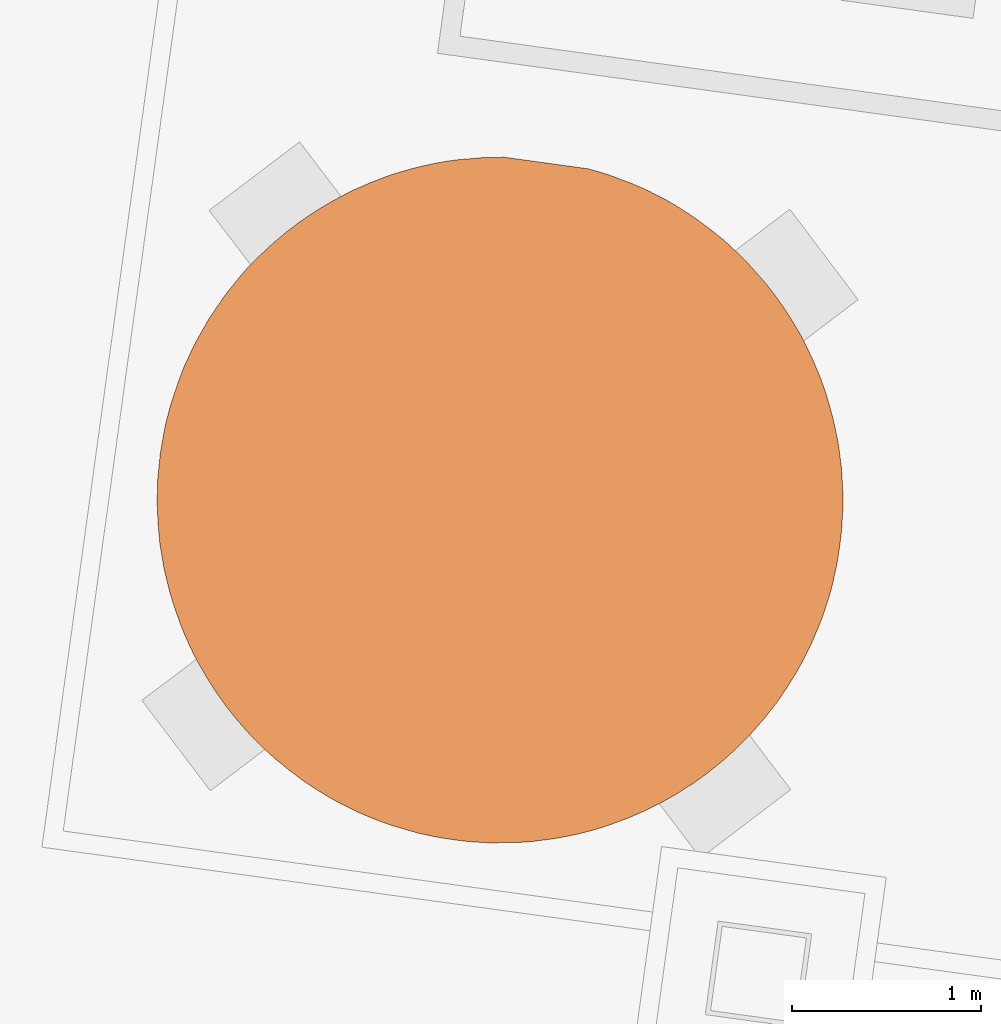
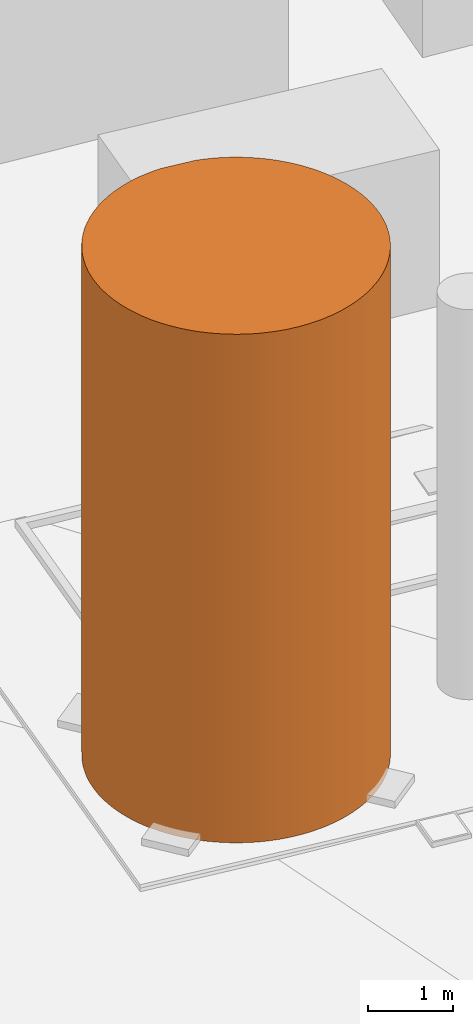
# Not in any storey, part 67 of 75: 1 proxy.
"""IFC4 model written with IfcOpenShell, lengths in metres."""

from ifc_helpers import new_model, si_unit, direction, origin_with_axes, place, context, subcontext, project, spatial, triangles, element, save


model = new_model("IFC4")

# Units and contexts
model_context = context("Model", 3, precision=1e-05, world=origin_with_axes(), true_north=direction((0.0, 1.0)))
body_context = subcontext(model_context, "Body", "Model", "MODEL_VIEW")
ifc_project = project(units=[si_unit("AREAUNIT", "SQUARE_METRE"), si_unit("VOLUMEUNIT", "CUBIC_METRE"), si_unit("LENGTHUNIT", "METRE")], contexts=[model_context])

# Site
site_placement = place(None, origin_with_axes())
site = spatial("IfcSite", under=ifc_project, at=site_placement, Name="Parcela industrial Jinhong")

# Proxy
proxy_placement = place(site_placement, origin_with_axes())
element("IfcBuildingElementProxy", 1, at=proxy_placement, inside=site, Name="Adsorbedor MS1202 · volumen de referencia H 7,30 m", ObjectType="Marcador de equipo en planta", PredefinedType="USERDEFINED", context=body_context, shape_type="Tessellation", body=[
    triangles([(49.49641, 58.04874, 1.2), (49.422422, 57.989508, 1.2), (49.458663, 58.020117, 1.2), (49.458663, 58.020117, 8.5), (49.422422, 57.989508, 8.5), (49.49641, 58.04874, 8.5), (49.573411, 58.103998, 1.2), (49.573411, 58.103998, 8.5), (49.534157, 58.077362, 1.2), (49.534157, 58.077362, 8.5), (49.351446, 57.926303, 1.2), (49.351446, 57.926303, 8.5), (49.653425, 58.155283, 1.2), (49.653425, 58.155283, 8.5), (49.612665, 58.130634, 1.2), (49.612665, 58.130634, 8.5), (49.736452, 58.202594, 1.2), (49.694185, 58.179932, 1.2), (49.694185, 58.179932, 8.5), (49.736452, 58.202594, 8.5), (49.864278, 58.265102, 1.2), (49.778719, 58.225257, 1.2), (49.778719, 58.225257, 8.5), (49.864278, 58.265102, 8.5), (49.820745, 58.246173, 1.2), (49.820745, 58.246173, 8.5), (49.952851, 58.300973, 1.2), (49.907811, 58.284031, 1.2), (49.907811, 58.284031, 8.5), (49.952851, 58.300973, 8.5), (50.042689, 58.333111, 1.2), (49.996143, 58.318156, 1.2), (49.996143, 58.318156, 8.5), (50.042689, 58.333111, 8.5), (50.087249, 58.346561, 1.2), (50.087249, 58.346561, 8.5), (50.414293, 58.408372, 1.2), (50.414293, 58.408372, 8.5), (50.225445, 58.380948, 1.2), (50.225445, 58.380948, 8.5), (50.133554, 58.35977, 1.2), (50.133554, 58.35977, 8.5), (50.17962, 58.371232, 1.2), (50.17962, 58.371232, 8.5), (50.273017, 58.390424, 1.2), (50.273017, 58.390424, 8.5), (50.365695, 58.404376, 1.2), (50.365695, 58.404376, 8.5), (50.318603, 58.398393, 1.2), (50.318603, 58.398393, 8.5), (50.556114, 58.417347, 1.2), (50.461145, 58.412608, 1.2), (50.507996, 58.416844, 1.2), (50.507996, 58.416844, 8.5), (50.461145, 58.412608, 8.5), (50.556114, 58.417347, 8.5), (51.072314, 58.353496, 1.2), (50.602486, 58.41809, 1.2), (50.611459, 58.418636, 1.2), (50.611459, 58.418636, 8.5), (50.602486, 58.41809, 8.5), (51.072314, 58.353496, 8.5), (51.063821, 58.356443, 1.2), (51.063821, 58.356443, 8.5), (51.208678, 58.309833, 1.2), (51.118511, 58.340026, 1.2), (51.162961, 58.326796, 1.2), (51.162961, 58.326796, 8.5), (51.118511, 58.340026, 8.5), (51.208678, 58.309833, 8.5), (51.252648, 58.293111, 1.2), (51.252648, 58.293111, 8.5), (51.947834, 57.809583, 1.2), (51.947834, 57.809583, 8.5), (51.667986, 58.065167, 1.2), (51.667986, 58.065167, 8.5), (51.550877, 58.145333, 1.2), (51.550877, 58.145333, 8.5), (51.427088, 58.21574, 1.2), (51.427088, 58.21574, 8.5), (51.383838, 58.237703, 1.2), (51.383838, 58.237703, 8.5), (51.340348, 58.257919, 1.2), (51.340348, 58.257919, 8.5), (51.296618, 58.276388, 1.2), (51.296618, 58.276388, 8.5), (51.509854, 58.170549, 1.2), (51.509854, 58.170549, 8.5), (51.468591, 58.194018, 1.2), (51.468591, 58.194018, 8.5), (51.62919, 58.093636, 1.2), (51.62919, 58.093636, 8.5), (51.590154, 58.120358, 1.2), (51.590154, 58.120358, 8.5), (51.849806, 57.91204, 1.2), (51.849806, 57.91204, 8.5), (51.743591, 58.006724, 1.2), (51.743591, 58.006724, 8.5), (51.706782, 58.036699, 1.2), (51.706782, 58.036699, 8.5), (51.815224, 57.945268, 1.2), (51.780401, 57.976749, 1.2), (51.780401, 57.976749, 8.5), (51.815224, 57.945268, 8.5), (51.916985, 57.844077, 1.2), (51.916985, 57.844077, 8.5), (51.884389, 57.878812, 1.2), (51.884389, 57.878812, 8.5), (51.572034, 55.076195, 1.2), (51.572034, 55.076195, 8.5), (52.272965, 57.287953, 1.2), (52.272965, 57.287953, 8.5), (52.235107, 57.375019, 1.2), (52.235107, 57.375019, 8.5), (52.145964, 57.542098, 1.2), (52.145964, 57.542098, 8.5), (52.094679, 57.622112, 1.2), (52.094679, 57.622112, 8.5), (52.039421, 57.699114, 1.2), (52.039421, 57.699114, 8.5), (51.98019, 57.773102, 1.2), (51.98019, 57.773102, 8.5), (52.010799, 57.736861, 1.2), (52.010799, 57.736861, 8.5), (52.068044, 57.661366, 1.2), (52.068044, 57.661366, 8.5), (52.121315, 57.582859, 1.2), (52.121315, 57.582859, 8.5), (52.214432, 57.418792, 1.2), (52.170613, 57.501338, 1.2), (52.170613, 57.501338, 8.5), (52.214432, 57.418792, 8.5), (52.193516, 57.460818, 1.2), (52.193516, 57.460818, 8.5), (52.255783, 57.331245, 1.2), (52.255783, 57.331245, 8.5), (52.30709, 57.19962, 1.2), (52.291895, 57.24442, 1.2), (52.291895, 57.24442, 8.5), (52.30709, 57.19962, 8.5), (52.335495, 57.108515, 1.2), (52.335495, 57.108515, 8.5), (52.322286, 57.154821, 1.2), (52.322286, 57.154821, 8.5), (52.390327, 56.355329, 1.2), (52.390327, 56.355329, 8.5), (52.369883, 56.970318, 1.2), (52.369883, 56.970318, 8.5), (52.348704, 57.062209, 1.2), (52.348704, 57.062209, 8.5), (52.360167, 57.016144, 1.2), (52.360167, 57.016144, 8.5), (52.387328, 56.877161, 1.2), (52.379599, 56.924493, 1.2), (52.379599, 56.924493, 8.5), (52.387328, 56.877161, 8.5), (52.393311, 56.830069, 1.2), (52.393311, 56.830069, 8.5), (52.403289, 56.734379, 1.2), (52.399293, 56.782977, 1.2), (52.399293, 56.782977, 8.5), (52.403289, 56.734379, 8.5), (52.405779, 56.687767, 1.2), (52.405779, 56.687767, 8.5), (52.404537, 56.497522, 1.2), (52.404537, 56.497522, 8.5), (52.408028, 56.639409, 1.2), (52.408028, 56.639409, 8.5), (52.407528, 56.54516, 1.2), (52.407528, 56.54516, 8.5), (52.408771, 56.593038, 1.2), (52.408771, 56.593038, 8.5), (52.401547, 56.449885, 1.2), (52.401547, 56.449885, 8.5), (52.39681, 56.402487, 1.2), (52.39681, 56.402487, 8.5), (51.652288, 55.129227, 1.2), (51.612794, 55.100844, 1.2), (51.612794, 55.100844, 8.5), (51.652288, 55.129227, 8.5), (51.49226, 55.026657, 1.2), (51.53278, 55.049559, 1.2), (51.53278, 55.049559, 8.5), (51.49226, 55.026657, 8.5), (51.407726, 54.981332, 1.2), (51.449753, 55.002248, 1.2), (51.449753, 55.002248, 8.5), (51.407726, 54.981332, 8.5), (51.322167, 54.941487, 1.2), (51.322167, 54.941487, 8.5), (51.3657, 54.960416, 1.2), (51.3657, 54.960416, 8.5), (51.233594, 54.905616, 1.2), (51.278634, 54.922558, 1.2), (51.278634, 54.922558, 8.5), (51.233594, 54.905616, 8.5), (50.630331, 54.789242, 1.2), (50.630331, 54.789242, 8.5), (50.819004, 54.802453, 1.2), (50.819004, 54.802453, 8.5), (50.961, 54.825641, 1.2), (50.961, 54.825641, 8.5), (51.099197, 54.860028, 1.2), (51.099197, 54.860028, 8.5), (51.188555, 54.888673, 1.2), (51.188555, 54.888673, 8.5), (51.143756, 54.873478, 1.2), (51.143756, 54.873478, 8.5), (51.052891, 54.846819, 1.2), (51.052891, 54.846819, 8.5), (51.006825, 54.835357, 1.2), (51.006825, 54.835357, 8.5), (50.913428, 54.816165, 1.2), (50.913428, 54.816165, 8.5), (50.866096, 54.808436, 1.2), (50.866096, 54.808436, 8.5), (50.676702, 54.789985, 1.2), (50.676702, 54.789985, 8.5), (50.771912, 54.79647, 1.2), (50.771912, 54.79647, 8.5), (50.72506, 54.792234, 1.2), (50.72506, 54.792234, 8.5), (50.067934, 54.866563, 1.2), (50.067934, 54.866563, 8.5), (50.582213, 54.788739, 1.2), (50.582213, 54.788739, 8.5), (50.346011, 54.805197, 1.2), (50.346011, 54.805197, 8.5), (50.488204, 54.790986, 1.2), (50.488204, 54.790986, 8.5), (50.534095, 54.788236, 1.2), (50.534095, 54.788236, 8.5), (50.440566, 54.793977, 1.2), (50.440566, 54.793977, 8.5), (50.393168, 54.798713, 1.2), (50.393168, 54.798713, 8.5), (50.112384, 54.853333, 1.2), (50.112384, 54.853333, 8.5), (50.205259, 54.829887, 1.2), (50.205259, 54.829887, 8.5), (50.251936, 54.81991, 1.2), (50.251936, 54.81991, 8.5), (50.298853, 54.81168, 1.2), (50.298853, 54.81168, 8.5), (50.158581, 54.839864, 1.2), (50.158581, 54.839864, 8.5), (49.977527, 54.895009, 1.2), (50.021737, 54.880033, 1.2), (50.021737, 54.880033, 8.5), (49.977527, 54.895009, 8.5), (49.933557, 54.911732, 1.2), (49.933557, 54.911732, 8.5), (49.88808, 54.930441, 1.2), (49.88808, 54.930441, 8.5), (49.759357, 54.990849, 1.2), (49.759357, 54.990849, 8.5), (49.802607, 54.968886, 1.2), (49.802607, 54.968886, 8.5), (49.84435, 54.94891, 1.2), (49.84435, 54.94891, 8.5), (49.518459, 55.141421, 1.2), (49.518459, 55.141421, 8.5), (49.635568, 55.061256, 1.2), (49.635568, 55.061256, 8.5), (49.676591, 55.03604, 1.2), (49.676591, 55.03604, 8.5), (49.717854, 55.012571, 1.2), (49.717854, 55.012571, 8.5), (49.596291, 55.086231, 1.2), (49.596291, 55.086231, 8.5), (49.555509, 55.113193, 1.2), (49.555509, 55.113193, 8.5), (49.442854, 55.199865, 1.2), (49.479663, 55.16989, 1.2), (49.479663, 55.16989, 8.5), (49.442854, 55.199865, 8.5), (49.371222, 55.261321, 1.2), (49.406044, 55.22984, 1.2), (49.406044, 55.22984, 8.5), (49.371222, 55.261321, 8.5), (49.302056, 55.327777, 1.2), (49.336399, 55.292803, 1.2), (49.336399, 55.292803, 8.5), (49.302056, 55.327777, 8.5), (49.236865, 55.397246, 1.2), (49.26922, 55.360765, 1.2), (49.26922, 55.360765, 8.5), (49.236865, 55.397246, 8.5), (49.175646, 55.469728, 1.2), (49.206015, 55.431741, 1.2), (49.206015, 55.431741, 8.5), (49.175646, 55.469728, 8.5), (49.118401, 55.545223, 1.2), (49.146784, 55.505729, 1.2), (49.146784, 55.505729, 8.5), (49.118401, 55.545223, 8.5), (48.879355, 56.006969, 1.2), (48.879355, 56.006969, 8.5), (49.06513, 55.62373, 1.2), (49.06513, 55.62373, 8.5), (49.091525, 55.58273, 1.2), (49.091525, 55.58273, 8.5), (49.015832, 55.705251, 1.2), (49.015832, 55.705251, 8.5), (49.040241, 55.662744, 1.2), (49.040241, 55.662744, 8.5), (48.949591, 55.831811, 1.2), (48.949591, 55.831811, 8.5), (48.992929, 55.745771, 1.2), (48.992929, 55.745771, 8.5), (48.970267, 55.788037, 1.2), (48.970267, 55.788037, 8.5), (48.911733, 55.918876, 1.2), (48.911733, 55.918876, 8.5), (48.930422, 55.873597, 1.2), (48.930422, 55.873597, 8.5), (48.894551, 55.962169, 1.2), (48.894551, 55.962169, 8.5), (48.837501, 56.142633, 1.2), (48.864159, 56.051768, 1.2), (48.864159, 56.051768, 8.5), (48.837501, 56.142633, 8.5), (48.849203, 56.098314, 1.2), (48.849203, 56.098314, 8.5), (48.826038, 56.188698, 1.2), (48.826038, 56.188698, 8.5), (48.806846, 56.282096, 1.2), (48.806846, 56.282096, 8.5), (48.814816, 56.236511, 1.2), (48.814816, 56.236511, 8.5), (48.799117, 56.329428, 1.2), (48.799117, 56.329428, 8.5), (48.787152, 56.423612, 1.2), (48.791388, 56.37676, 1.2), (48.791388, 56.37676, 8.5), (48.787152, 56.423612, 8.5), (48.780666, 56.518821, 1.2), (48.782915, 56.470463, 1.2), (48.782915, 56.470463, 8.5), (48.780666, 56.518821, 8.5), (48.777674, 56.613551, 1.2), (48.778176, 56.565433, 1.2), (48.778176, 56.565433, 8.5), (48.777674, 56.613551, 8.5), (48.778917, 56.661429, 1.2), (48.778917, 56.661429, 8.5), (48.784658, 56.754958, 1.2), (48.784658, 56.754958, 8.5), (48.780161, 56.709307, 1.2), (48.780161, 56.709307, 8.5), (48.789395, 56.802355, 1.2), (48.789395, 56.802355, 8.5), (48.802362, 56.89667, 1.2), (48.802362, 56.89667, 8.5), (48.794132, 56.849753, 1.2), (48.794132, 56.849753, 8.5), (48.870714, 57.173787, 1.2), (48.870714, 57.173787, 8.5), (48.810592, 56.943588, 1.2), (48.810592, 56.943588, 8.5), (48.830545, 57.036942, 1.2), (48.830545, 57.036942, 8.5), (48.818822, 56.990505, 1.2), (48.818822, 56.990505, 8.5), (48.855498, 57.12783, 1.2), (48.842268, 57.083379, 1.2), (48.842268, 57.083379, 8.5), (48.855498, 57.12783, 8.5), (49.026721, 57.518933, 1.2), (49.026721, 57.518933, 8.5), (49.003252, 57.47767, 1.2), (49.003252, 57.47767, 8.5), (48.939592, 57.351174, 1.2), (48.939592, 57.351174, 8.5), (48.88569, 57.217997, 1.2), (48.88569, 57.217997, 8.5), (48.902653, 57.263714, 1.2), (48.902653, 57.263714, 8.5), (48.919376, 57.307684, 1.2), (48.919376, 57.307684, 8.5), (48.959808, 57.394663, 1.2), (48.959808, 57.394663, 8.5), (48.979784, 57.436407, 1.2), (48.979784, 57.436407, 8.5), (49.077152, 57.600979, 1.2), (49.05019, 57.560196, 1.2), (49.05019, 57.560196, 8.5), (49.077152, 57.600979, 8.5), (49.103874, 57.640015, 1.2), (49.103874, 57.640015, 8.5), (49.1888, 57.75291, 1.2), (49.1888, 57.75291, 8.5), (49.158825, 57.716101, 1.2), (49.158825, 57.716101, 8.5), (49.130596, 57.679051, 1.2), (49.130596, 57.679051, 8.5), (49.283724, 57.860871, 1.2), (49.218775, 57.78972, 1.2), (49.218775, 57.78972, 8.5), (49.283724, 57.860871, 8.5), (49.250496, 57.826289, 1.2), (49.250496, 57.826289, 8.5), (49.316712, 57.893707, 1.2), (49.316712, 57.893707, 8.5), (49.386181, 57.958899, 1.2), (49.386181, 57.958899, 8.5), (51.727782, 55.186471, 1.2), (51.727782, 55.186471, 8.5), (51.800264, 55.24769, 1.2), (51.800264, 55.24769, 8.5), (51.965924, 55.417109, 1.2), (51.965924, 55.417109, 8.5), (52.025874, 55.490728, 1.2), (52.025874, 55.490728, 8.5), (52.134508, 55.646633, 1.2), (52.134508, 55.646633, 8.5), (52.204915, 55.770422, 1.2), (52.204915, 55.770422, 8.5), (52.265323, 55.899145, 1.2), (52.265323, 55.899145, 8.5), (52.365877, 56.216324, 1.2), (52.365877, 56.216324, 8.5), (52.383843, 56.308172, 1.2), (52.383843, 56.308172, 8.5), (52.375613, 56.261255, 1.2), (52.375613, 56.261255, 8.5), (52.315731, 56.032802, 1.2), (52.3559, 56.169647, 1.2), (52.3559, 56.169647, 8.5), (52.315731, 56.032802, 8.5), (52.344177, 56.12321, 1.2), (52.344177, 56.12321, 8.5), (52.330707, 56.077013, 1.2), (52.330707, 56.077013, 8.5), (52.283792, 55.942875, 1.2), (52.300515, 55.986846, 1.2), (52.300515, 55.986846, 8.5), (52.283792, 55.942875, 8.5), (52.246853, 55.855415, 1.2), (52.246853, 55.855415, 8.5), (52.226637, 55.811925, 1.2), (52.226637, 55.811925, 8.5), (52.182952, 55.727173, 1.2), (52.182952, 55.727173, 8.5), (52.159484, 55.685909, 1.2), (52.159484, 55.685909, 8.5), (52.082571, 55.566574, 1.2), (52.109293, 55.60561, 1.2), (52.109293, 55.60561, 8.5), (52.082571, 55.566574, 8.5), (52.055849, 55.527538, 1.2), (52.055849, 55.527538, 8.5), (51.997405, 55.451932, 1.2), (51.997405, 55.451932, 8.5), (51.869733, 55.312882, 1.2), (51.934202, 55.38054, 1.2), (51.934202, 55.38054, 8.5), (51.869733, 55.312882, 8.5), (51.902721, 55.345718, 1.2), (51.902721, 55.345718, 8.5), (51.834758, 55.278539, 1.2), (51.834758, 55.278539, 8.5), (51.763783, 55.215334, 1.2), (51.763783, 55.215334, 8.5), (51.689795, 55.156102, 1.2), (51.689795, 55.156102, 8.5)], [[1, 2, 3], [5, 6, 4], [7, 2, 1], [6, 5, 8], [7, 1, 9], [6, 8, 10], [2, 7, 11], [5, 12, 8], [13, 11, 7], [12, 14, 8], [13, 7, 15], [8, 14, 16], [18, 17, 13], [19, 14, 20], [22, 21, 17], [23, 20, 24], [25, 21, 22], [23, 24, 26], [28, 27, 21], [29, 24, 30], [32, 31, 27], [33, 30, 34], [31, 35, 27], [34, 30, 36], [35, 37, 27], [36, 30, 38], [37, 35, 39], [36, 38, 40], [39, 35, 41], [36, 40, 42], [43, 39, 41], [44, 42, 40], [45, 37, 39], [46, 40, 38], [47, 37, 45], [48, 46, 38], [47, 45, 49], [46, 48, 50], [52, 53, 51], [56, 54, 55], [58, 59, 57], [62, 60, 61], [59, 63, 57], [62, 64, 60], [65, 66, 67], [69, 70, 68], [71, 66, 65], [70, 69, 72], [37, 66, 71], [72, 69, 38], [37, 71, 73], [74, 72, 38], [73, 71, 75], [72, 74, 76], [75, 71, 77], [72, 76, 78], [77, 71, 79], [72, 78, 80], [79, 71, 81], [72, 80, 82], [81, 71, 83], [72, 82, 84], [83, 71, 85], [72, 84, 86], [87, 77, 79], [88, 80, 78], [87, 79, 89], [80, 88, 90], [91, 75, 77], [92, 78, 76], [91, 77, 93], [78, 92, 94], [95, 73, 75], [96, 76, 74], [95, 75, 97], [76, 96, 98], [97, 75, 99], [76, 98, 100], [102, 101, 97], [103, 98, 104], [95, 97, 101], [98, 96, 104], [105, 73, 95], [106, 96, 74], [105, 95, 107], [96, 106, 108], [109, 37, 73], [110, 74, 38], [73, 111, 109], [74, 110, 112], [111, 73, 113], [74, 112, 114], [113, 73, 115], [74, 114, 116], [115, 73, 117], [74, 116, 118], [117, 73, 119], [74, 118, 120], [119, 73, 121], [74, 120, 122], [123, 119, 121], [124, 122, 120], [125, 117, 119], [126, 120, 118], [115, 117, 127], [118, 116, 128], [130, 129, 115], [131, 116, 132], [133, 129, 130], [131, 132, 134], [113, 115, 129], [116, 114, 132], [135, 111, 113], [136, 114, 112], [138, 137, 111], [139, 112, 140], [137, 141, 111], [140, 112, 142], [141, 137, 143], [140, 142, 144], [141, 145, 111], [142, 112, 146], [145, 141, 147], [142, 146, 148], [147, 141, 149], [142, 148, 150], [151, 147, 149], [152, 150, 148], [154, 153, 147], [155, 148, 156], [153, 157, 147], [156, 148, 158], [160, 159, 157], [161, 158, 162], [159, 163, 157], [162, 158, 164], [163, 165, 157], [164, 158, 166], [165, 163, 167], [164, 166, 168], [169, 165, 167], [170, 168, 166], [169, 167, 171], [168, 170, 172], [145, 165, 173], [166, 146, 174], [175, 145, 173], [176, 174, 146], [109, 177, 178], [179, 180, 110], [182, 181, 109], [183, 110, 184], [186, 185, 181], [187, 184, 188], [185, 109, 181], [110, 188, 184], [185, 189, 109], [188, 110, 190], [189, 185, 191], [188, 190, 192], [194, 193, 189], [195, 190, 196], [193, 109, 189], [110, 196, 190], [193, 197, 109], [196, 110, 198], [197, 193, 199], [196, 198, 200], [199, 193, 201], [196, 200, 202], [201, 193, 203], [196, 202, 204], [203, 193, 205], [196, 204, 206], [207, 203, 205], [208, 206, 204], [209, 201, 203], [210, 204, 202], [211, 201, 209], [212, 210, 202], [213, 199, 201], [214, 202, 200], [215, 199, 213], [216, 214, 200], [217, 197, 199], [218, 200, 198], [217, 199, 219], [200, 218, 220], [221, 217, 219], [222, 220, 218], [197, 223, 109], [198, 110, 224], [223, 197, 225], [198, 224, 226], [227, 223, 225], [228, 226, 224], [227, 225, 229], [226, 228, 230], [229, 225, 231], [226, 230, 232], [233, 227, 229], [234, 230, 228], [235, 227, 233], [236, 234, 228], [237, 223, 227], [238, 228, 224], [237, 227, 239], [228, 238, 240], [239, 227, 241], [228, 240, 242], [241, 227, 243], [228, 242, 244], [237, 239, 245], [240, 238, 246], [248, 247, 223], [249, 224, 250], [247, 251, 223], [250, 224, 252], [251, 253, 223], [252, 224, 254], [253, 255, 223], [254, 224, 256], [255, 253, 257], [254, 256, 258], [257, 253, 259], [254, 258, 260], [255, 261, 223], [256, 224, 262], [261, 255, 263], [256, 262, 264], [263, 255, 265], [256, 264, 266], [265, 255, 267], [256, 266, 268], [269, 261, 263], [270, 264, 262], [271, 261, 269], [272, 270, 262], [274, 273, 261], [275, 262, 276], [278, 277, 273], [279, 276, 280], [282, 281, 277], [283, 280, 284], [286, 285, 281], [287, 284, 288], [290, 289, 285], [291, 288, 292], [294, 293, 289], [295, 292, 296], [293, 297, 289], [296, 292, 298], [297, 293, 299], [296, 298, 300], [299, 293, 301], [296, 300, 302], [303, 297, 299], [304, 300, 298], [303, 299, 305], [300, 304, 306], [307, 297, 303], [308, 304, 298], [307, 303, 309], [304, 308, 310], [311, 307, 309], [312, 310, 308], [313, 297, 307], [314, 308, 298], [313, 307, 315], [308, 314, 316], [317, 297, 313], [318, 314, 298], [320, 319, 297], [321, 298, 322], [323, 319, 320], [321, 322, 324], [319, 325, 297], [322, 298, 326], [325, 327, 297], [326, 298, 328], [327, 325, 329], [326, 328, 330], [327, 331, 297], [328, 298, 332], [334, 333, 331], [335, 332, 336], [338, 337, 333], [339, 336, 340], [342, 341, 337], [343, 340, 344], [341, 345, 337], [344, 340, 346], [345, 347, 337], [346, 340, 348], [347, 345, 349], [346, 348, 350], [347, 351, 337], [348, 340, 352], [351, 353, 337], [352, 340, 354], [353, 351, 355], [352, 354, 356], [353, 357, 337], [354, 340, 358], [357, 353, 359], [354, 358, 360], [361, 357, 359], [362, 360, 358], [361, 359, 363], [360, 362, 364], [366, 365, 361], [367, 362, 368], [357, 361, 365], [362, 358, 368], [357, 369, 337], [358, 340, 370], [369, 357, 371], [358, 370, 372], [371, 357, 373], [358, 372, 374], [373, 357, 375], [358, 374, 376], [377, 373, 375], [378, 376, 374], [379, 373, 377], [380, 378, 374], [371, 373, 381], [374, 372, 382], [383, 371, 381], [384, 382, 372], [386, 385, 369], [387, 370, 388], [385, 389, 369], [388, 370, 390], [11, 369, 389], [370, 12, 390], [391, 11, 389], [392, 390, 12], [391, 389, 393], [390, 392, 394], [393, 389, 395], [390, 394, 396], [398, 397, 391], [399, 392, 400], [401, 397, 398], [399, 400, 402], [397, 403, 391], [400, 392, 404], [11, 391, 403], [392, 12, 404], [2, 11, 405], [12, 5, 406], [11, 13, 369], [12, 370, 14], [369, 13, 37], [370, 38, 14], [17, 37, 13], [20, 14, 38], [27, 37, 17], [30, 20, 38], [21, 27, 17], [24, 20, 30], [337, 369, 37], [340, 38, 370], [109, 337, 37], [340, 110, 38], [261, 337, 109], [262, 110, 340], [223, 261, 109], [224, 110, 262], [261, 297, 337], [298, 262, 340], [285, 297, 261], [288, 262, 298], [273, 285, 261], [276, 262, 288], [281, 285, 273], [284, 276, 288], [277, 281, 273], [280, 276, 284], [289, 297, 285], [292, 288, 298], [331, 337, 297], [332, 298, 340], [333, 337, 331], [336, 332, 340], [109, 407, 177], [408, 110, 180], [109, 409, 407], [410, 110, 408], [109, 411, 409], [412, 110, 410], [109, 413, 411], [414, 110, 412], [413, 109, 111], [110, 414, 112], [145, 413, 111], [146, 112, 414], [413, 145, 415], [146, 414, 416], [415, 145, 417], [146, 416, 418], [417, 145, 419], [146, 418, 420], [419, 145, 421], [146, 420, 422], [421, 145, 423], [146, 422, 424], [425, 421, 423], [426, 424, 422], [428, 427, 421], [429, 422, 430], [431, 427, 428], [429, 430, 432], [433, 427, 431], [434, 432, 430], [436, 435, 427], [437, 430, 438], [419, 427, 435], [430, 420, 438], [417, 419, 439], [420, 418, 440], [441, 417, 439], [442, 440, 418], [415, 417, 443], [418, 416, 444], [445, 415, 443], [446, 444, 416], [448, 447, 415], [449, 416, 450], [413, 447, 451], [450, 414, 452], [411, 413, 453], [414, 412, 454], [456, 455, 411], [457, 412, 458], [459, 455, 456], [457, 458, 460], [409, 411, 455], [412, 410, 458], [461, 409, 455], [462, 458, 410], [447, 413, 415], [450, 416, 414], [427, 419, 421], [430, 422, 420], [463, 407, 409], [464, 410, 408], [465, 177, 407], [466, 408, 180], [165, 145, 157], [166, 158, 146], [157, 145, 147], [158, 148, 146], [37, 51, 66], [69, 56, 38], [51, 37, 52], [55, 38, 56], [57, 66, 51], [62, 56, 69], [57, 51, 58], [61, 56, 62], [61, 59, 58], [61, 60, 59], [56, 58, 51], [56, 61, 58], [51, 53, 54], [51, 54, 56], [55, 53, 52], [55, 54, 53], [38, 52, 37], [38, 55, 52], [37, 47, 48], [48, 38, 37], [47, 49, 50], [50, 48, 47], [46, 49, 45], [46, 50, 49], [40, 45, 39], [40, 46, 45], [39, 43, 44], [44, 40, 39], [42, 43, 41], [42, 44, 43], [36, 41, 35], [36, 42, 41], [34, 35, 31], [34, 36, 35], [31, 32, 33], [31, 33, 34], [30, 32, 27], [30, 33, 32], [27, 28, 29], [27, 29, 30], [24, 28, 21], [24, 29, 28], [21, 25, 26], [26, 24, 21], [23, 25, 22], [23, 26, 25], [20, 22, 17], [20, 23, 22], [17, 18, 19], [17, 19, 20], [14, 18, 13], [14, 19, 18], [13, 15, 16], [16, 14, 13], [8, 15, 7], [8, 16, 15], [7, 9, 10], [10, 8, 7], [6, 9, 1], [6, 10, 9], [1, 3, 4], [1, 4, 6], [5, 3, 2], [5, 4, 3], [2, 405, 406], [406, 5, 2], [12, 405, 11], [12, 406, 405], [11, 403, 404], [404, 12, 11], [400, 403, 397], [400, 404, 403], [402, 397, 401], [397, 402, 400], [401, 398, 399], [401, 399, 402], [398, 391, 392], [398, 392, 399], [394, 391, 393], [391, 394, 392], [396, 393, 395], [393, 396, 394], [395, 389, 390], [395, 390, 396], [389, 385, 388], [389, 388, 390], [387, 385, 386], [387, 388, 385], [386, 369, 370], [386, 370, 387], [372, 369, 371], [369, 372, 370], [384, 371, 383], [371, 384, 372], [383, 381, 382], [383, 382, 384], [381, 373, 374], [381, 374, 382], [380, 373, 379], [373, 380, 374], [379, 377, 378], [379, 378, 380], [377, 375, 376], [377, 376, 378], [375, 357, 358], [375, 358, 376], [368, 357, 365], [357, 368, 358], [367, 365, 366], [367, 368, 365], [366, 361, 362], [366, 362, 367], [364, 361, 363], [361, 364, 362], [363, 359, 360], [363, 360, 364], [359, 353, 354], [359, 354, 360], [356, 353, 355], [353, 356, 354], [355, 351, 352], [355, 352, 356], [351, 347, 348], [351, 348, 352], [350, 347, 349], [347, 350, 348], [349, 345, 346], [349, 346, 350], [345, 341, 344], [345, 344, 346], [343, 341, 342], [343, 344, 341], [342, 337, 340], [342, 340, 343], [339, 337, 338], [339, 340, 337], [338, 333, 336], [338, 336, 339], [335, 333, 334], [335, 336, 333], [334, 331, 332], [334, 332, 335], [331, 327, 328], [331, 328, 332], [330, 327, 329], [327, 330, 328], [329, 325, 326], [329, 326, 330], [325, 319, 322], [325, 322, 326], [324, 319, 323], [319, 324, 322], [323, 320, 321], [323, 321, 324], [320, 297, 298], [320, 298, 321], [318, 297, 317], [297, 318, 298], [317, 313, 314], [317, 314, 318], [316, 313, 315], [313, 316, 314], [315, 307, 308], [315, 308, 316], [312, 307, 311], [307, 312, 308], [311, 309, 310], [311, 310, 312], [309, 303, 304], [309, 304, 310], [306, 303, 305], [303, 306, 304], [305, 299, 300], [305, 300, 306], [302, 299, 301], [299, 302, 300], [301, 293, 296], [301, 296, 302], [295, 293, 294], [295, 296, 293], [294, 289, 292], [294, 292, 295], [291, 289, 290], [291, 292, 289], [290, 285, 288], [290, 288, 291], [287, 285, 286], [287, 288, 285], [286, 281, 284], [286, 284, 287], [283, 281, 282], [283, 284, 281], [280, 282, 277], [280, 283, 282], [277, 278, 279], [277, 279, 280], [276, 278, 273], [276, 279, 278], [273, 274, 275], [273, 275, 276], [262, 274, 261], [262, 275, 274], [261, 271, 272], [272, 262, 261], [270, 271, 269], [270, 272, 271], [264, 269, 263], [264, 270, 269], [263, 265, 266], [266, 264, 263], [265, 267, 268], [268, 266, 265], [256, 267, 255], [256, 268, 267], [255, 257, 258], [258, 256, 255], [257, 259, 260], [260, 258, 257], [254, 259, 253], [254, 260, 259], [252, 253, 251], [252, 254, 253], [250, 251, 247], [250, 252, 251], [247, 248, 249], [247, 249, 250], [224, 248, 223], [224, 249, 248], [223, 237, 238], [238, 224, 223], [237, 245, 246], [246, 238, 237], [240, 245, 239], [240, 246, 245], [239, 241, 242], [242, 240, 239], [241, 243, 244], [244, 242, 241], [228, 243, 227], [228, 244, 243], [227, 235, 236], [236, 228, 227], [234, 235, 233], [234, 236, 235], [230, 233, 229], [230, 234, 233], [229, 231, 232], [232, 230, 229], [226, 231, 225], [226, 232, 231], [198, 225, 197], [198, 226, 225], [197, 217, 218], [218, 198, 197], [217, 221, 222], [222, 218, 217], [220, 221, 219], [220, 222, 221], [200, 219, 199], [200, 220, 219], [199, 215, 216], [216, 200, 199], [214, 215, 213], [214, 216, 215], [202, 213, 201], [202, 214, 213], [201, 211, 212], [212, 202, 201], [210, 211, 209], [210, 212, 211], [204, 209, 203], [204, 210, 209], [203, 207, 208], [208, 204, 203], [206, 207, 205], [206, 208, 207], [196, 205, 193], [196, 206, 205], [193, 194, 195], [193, 195, 196], [190, 194, 189], [190, 195, 194], [189, 191, 192], [192, 190, 189], [188, 191, 185], [188, 192, 191], [185, 186, 187], [185, 187, 188], [184, 186, 181], [184, 187, 186], [181, 182, 183], [181, 183, 184], [110, 182, 109], [110, 183, 182], [109, 178, 179], [179, 110, 109], [180, 178, 177], [180, 179, 178], [177, 465, 466], [466, 180, 177], [408, 465, 407], [408, 466, 465], [407, 463, 464], [464, 408, 407], [410, 463, 409], [410, 464, 463], [409, 461, 462], [462, 410, 409], [458, 461, 455], [458, 462, 461], [455, 459, 460], [460, 458, 455], [459, 456, 457], [459, 457, 460], [456, 411, 412], [456, 412, 457], [454, 411, 453], [411, 454, 412], [453, 413, 414], [453, 414, 454], [452, 413, 451], [413, 452, 414], [451, 447, 450], [451, 450, 452], [449, 447, 448], [449, 450, 447], [448, 415, 416], [448, 416, 449], [446, 415, 445], [415, 446, 416], [445, 443, 444], [445, 444, 446], [443, 417, 418], [443, 418, 444], [442, 417, 441], [417, 442, 418], [441, 439, 440], [441, 440, 442], [439, 419, 420], [439, 420, 440], [438, 419, 435], [419, 438, 420], [437, 435, 436], [437, 438, 435], [436, 427, 430], [436, 430, 437], [434, 427, 433], [427, 434, 430], [433, 431, 432], [433, 432, 434], [431, 428, 429], [431, 429, 432], [428, 421, 422], [428, 422, 429], [426, 421, 425], [421, 426, 422], [425, 423, 424], [425, 424, 426], [423, 145, 146], [423, 146, 424], [176, 145, 175], [145, 176, 146], [175, 173, 174], [175, 174, 176], [173, 165, 166], [173, 166, 174], [170, 165, 169], [165, 170, 166], [172, 169, 171], [169, 172, 170], [171, 167, 168], [171, 168, 172], [167, 163, 164], [167, 164, 168], [163, 159, 162], [163, 162, 164], [161, 159, 160], [161, 162, 159], [160, 157, 158], [160, 158, 161], [157, 153, 156], [157, 156, 158], [155, 153, 154], [155, 156, 153], [154, 147, 148], [154, 148, 155], [152, 147, 151], [147, 152, 148], [151, 149, 150], [151, 150, 152], [149, 141, 142], [149, 142, 150], [144, 141, 143], [141, 144, 142], [143, 137, 140], [143, 140, 144], [139, 137, 138], [139, 140, 137], [138, 111, 112], [138, 112, 139], [136, 111, 135], [111, 136, 112], [135, 113, 114], [135, 114, 136], [132, 113, 129], [113, 132, 114], [134, 129, 133], [129, 134, 132], [133, 130, 131], [133, 131, 134], [130, 115, 116], [130, 116, 131], [128, 115, 127], [115, 128, 116], [127, 117, 118], [127, 118, 128], [126, 117, 125], [117, 126, 118], [125, 119, 120], [125, 120, 126], [124, 119, 123], [119, 124, 120], [123, 121, 122], [123, 122, 124], [121, 73, 74], [121, 74, 122], [106, 73, 105], [73, 106, 74], [108, 105, 107], [105, 108, 106], [96, 107, 95], [96, 108, 107], [95, 101, 104], [104, 96, 95], [101, 102, 103], [101, 103, 104], [98, 102, 97], [98, 103, 102], [97, 99, 100], [100, 98, 97], [76, 99, 75], [76, 100, 99], [75, 91, 92], [92, 76, 75], [91, 93, 94], [94, 92, 91], [78, 93, 77], [78, 94, 93], [77, 87, 88], [88, 78, 77], [87, 89, 90], [90, 88, 87], [80, 89, 79], [80, 90, 89], [79, 81, 82], [82, 80, 79], [81, 83, 84], [84, 82, 81], [83, 85, 86], [86, 84, 83], [72, 85, 71], [72, 86, 85], [70, 71, 65], [70, 72, 71], [65, 67, 68], [65, 68, 70], [69, 67, 66], [69, 68, 67], [62, 66, 57], [62, 69, 66], [57, 63, 64], [64, 62, 57], [60, 63, 59], [64, 63, 60]], closed=True),
])

save(model, "model.ifc")
